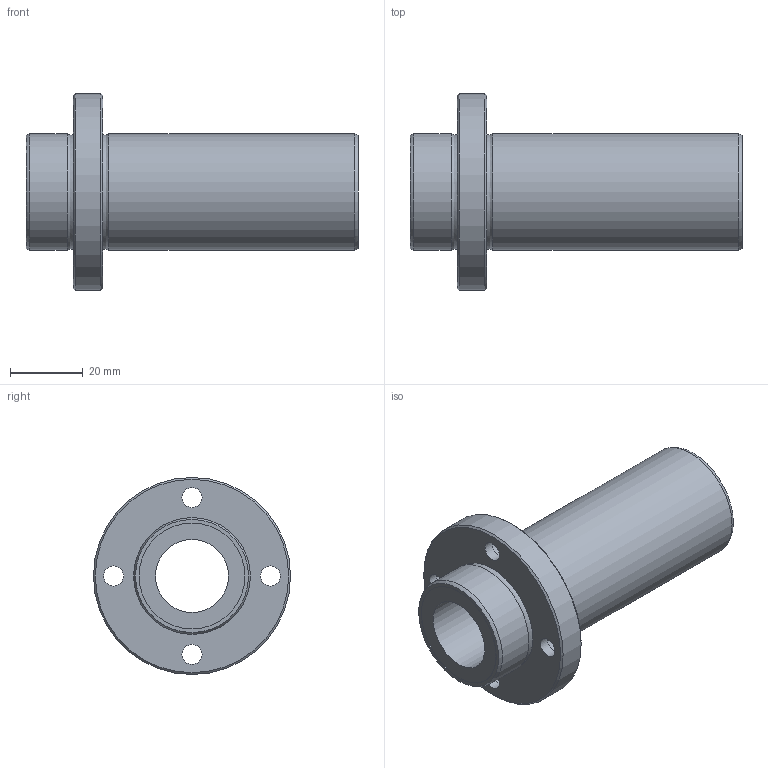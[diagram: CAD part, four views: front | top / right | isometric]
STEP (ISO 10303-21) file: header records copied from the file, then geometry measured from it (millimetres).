
FILE_DESCRIPTION((''),'2;1');
FILE_NAME('D:\製品 (図面)\カタログ用3D\メンテナンスフリー関連\STEP形式\LFDB-MF\LFDB20MF.stp','2010-06-01T15:37:56',('Tsuchiya'),(''),'Autodesk Inventor 10','Autodesk Inventor 10','');
FILE_SCHEMA(('AUTOMOTIVE_DESIGN { 1 0 10303 214 1 1 1 1 }'));
Length unit declared in the file: millimetre
Products named in the file (1): LFDB20MF
Bounding box: 91 x 54 x 54 mm (x, y, z)
Volume: 54622.1 mm3; surface area: 19859.5 mm2
Topology: 1 solids, 1 shells, 30 faces, 54 edges, 34 vertices
Faces by surface type: bspline 14, cylinder 6, plane 6, cone 2, torus 2
Full cylindrical faces by diameter (mm): 20 x1, 29 x2, 32 x2, 54 x1
Entity records: 907 total; most frequent: CARTESIAN_POINT 371, DIRECTION 102, ORIENTED_EDGE 68, EDGE_LOOP 68, AXIS2_PLACEMENT_3D 51, FACE_BOUND 38, VERTEX_POINT 34, CIRCLE 34
